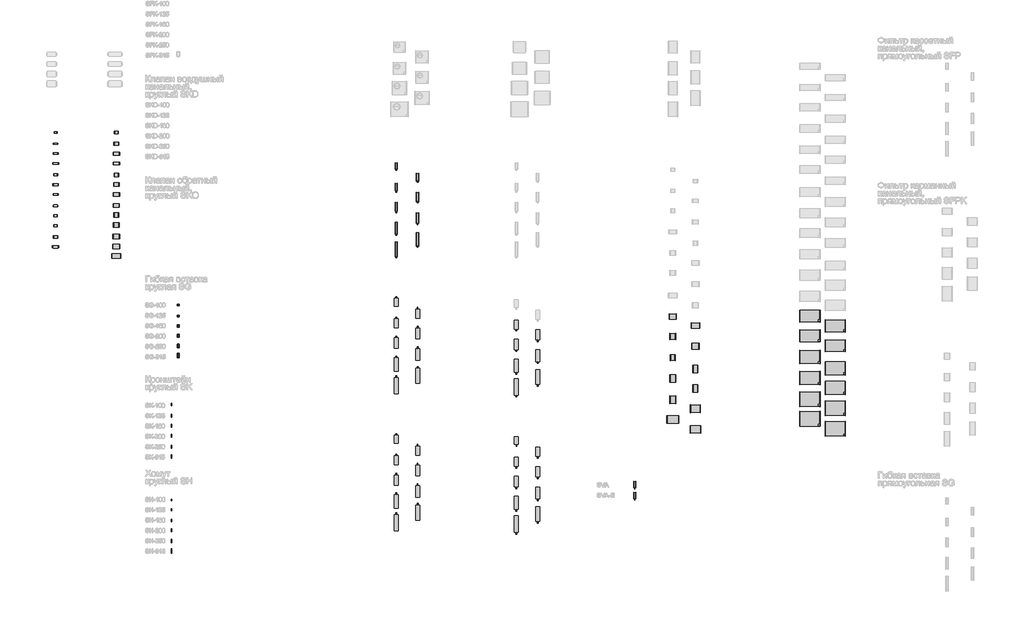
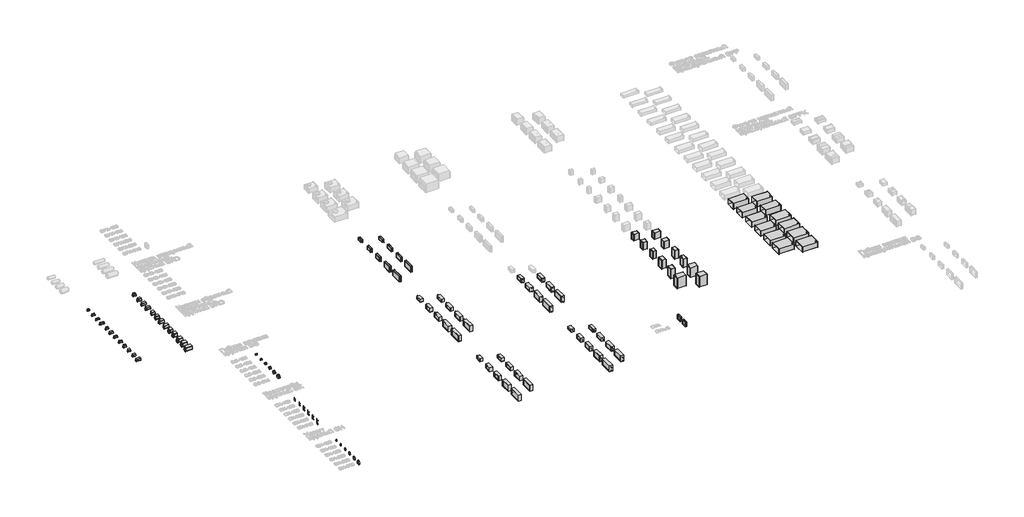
# One storey, part 1 of 31: 92 proxies, 12 duct fittings, 8 dampers.
"""IFC4 building model written with IfcOpenShell, lengths in millimetres."""

from ifc_helpers import new_model, si_unit, origin, place, context, project, spatial, transform, mapped, element, save
from components import mechanical_equipment_b47814ae, mechanical_equipment_1c517ccd, mechanical_equipment_89ec9e41, mechanical_equipment_c20731e0, mechanical_equipment_228ba155, mechanical_equipment_8e176f75, mechanical_equipment_6952d556, mechanical_equipment_70cf5aef, mechanical_equipment_b121b456, mechanical_equipment_2d57af06, mechanical_equipment_28e9e6f9, mechanical_equipment_b70cd4b4, mechanical_equipment_28121c7c, mechanical_equipment_35eb6cfc, mechanical_equipment_79761c90, mechanical_equipment_0bfd67fe, mechanical_equipment_e823907d, mechanical_equipment_239ba97e, mechanical_equipment_7e00c6e8, mechanical_equipment_5b81973e, mechanical_equipment_a84493ea, mechanical_equipment_276262f1, mechanical_equipment_5490f18c, mechanical_equipment_88e3c877, mechanical_equipment_e5c17de9, mechanical_equipment_13836d59, mechanical_equipment_3cc8e6d2, mechanical_equipment_0b54d464, mechanical_equipment_5d4a23c0, mechanical_equipment_1263eb8d, mechanical_equipment_32570a1a, mechanical_equipment_5f8ae278, mechanical_equipment_c1a8ffe5, mechanical_equipment_9a9d5098, mechanical_equipment_35fa630b, mechanical_equipment_1e4f478c, mechanical_equipment_5670d90b, mechanical_equipment_376c1359, mechanical_equipment_fcb9aed7, mechanical_equipment_759f91b6, mechanical_equipment_3be20053, mechanical_equipment_4ad8d908, mechanical_equipment_e5620a89, mechanical_equipment_38a8dd3d, mechanical_equipment_2bd975a8, mechanical_equipment_c4efd2f7, mechanical_equipment_3c6b7f57, mechanical_equipment_a84c9fad, mechanical_equipment_50ee9d71, mechanical_equipment_134bddf9, mechanical_equipment_55b060d5, mechanical_equipment_d7d3e3e1, mechanical_equipment_4c746dd5, mechanical_equipment_6bb9439d, mechanical_equipment_66c2cfd7, mechanical_equipment_b0fa356c, mechanical_equipment_4444cef8, mechanical_equipment_8d2328d6, mechanical_equipment_57107fca, mechanical_equipment_2f188b7c, mechanical_equipment_1b1addff, mechanical_equipment_ca928097, mechanical_equipment_fce2b66e, mechanical_equipment_a9e5a7ee, mechanical_equipment_61f48e37, mechanical_equipment_89104145, mechanical_equipment_e2811cc5, mechanical_equipment_e1696ac3, mechanical_equipment_7d7a51ef, mechanical_equipment_9b0fa026, mechanical_equipment_b4f86dda, mechanical_equipment_501dd943, mechanical_equipment_e76ec92c, mechanical_equipment_1a7b202f, mechanical_equipment_03cc3c5d, mechanical_equipment_e8fbd39b, mechanical_equipment_e0928fff, mechanical_equipment_3d9de555, mechanical_equipment_0687b049, sva_4ab12022, sg_100_5ce94af0, sg_125_f85b66b8, sg_160_08f91c44, sg_200_e4f14594, sg_250_57f15532, sg_315_5ef0e3f3, sh_100_c73d791e, sh_125_658f0c97, sh_160_df68ee8f, sh_200_04f6e43c, sh_250_80032faf, sh_315_680b5ec1, sk_100_6278c7a0, sk_125_be8d9755, sk_160_8e51cf89, sk_200_4e8135db, sk_250_66cdbe5c, sk_315_724401cd

model = new_model("IFC4")

# Units and contexts
model_context = context("Model", 3, world=origin())
ifc_project = project(units=[si_unit("LENGTHUNIT", "METRE", prefix="MILLI")], contexts=[model_context])

# Site, building, storey
site = spatial("IfcSite", under=ifc_project)
building = spatial("IfcBuilding", under=site)
storey = spatial("IfcBuildingStorey", under=building, Name="Этаж 01", Elevation=0.0)

# Proxies
placement = place(None, origin())
mechanical_equipment_shape = mechanical_equipment_b47814ae(model_context)
element("IfcBuildingElementProxy", 1, Name="СВ_ВоздухонагревательЭлектрический_КанальныйКруглый_DN100-315_SKH-E : SKH-E-100/0,5", ObjectType="СВ_ВоздухонагревательЭлектрический_КанальныйКруглый_DN100-315_SKH-E : SKH-E-100/0,5", at=placement, inside=storey, context=model_context, shape_type="MappedRepresentation", body=[
    mapped(mechanical_equipment_shape, transform((4028.018566, -19035.973435, 0.0), x_axis=(1.0, 0.0, 0.0), y_axis=(0.0, 1.0, 0.0), z_axis=(0.0, 0.0, 1.0))),
])
mechanical_equipment_2_shape = mechanical_equipment_1c517ccd(model_context)
element("IfcBuildingElementProxy", 2, Name="СВ_ВоздухонагревательЭлектрический_КанальныйКруглый_DN100-315_SKH-E : SKH-E-100/1,5", ObjectType="СВ_ВоздухонагревательЭлектрический_КанальныйКруглый_DN100-315_SKH-E : SKH-E-100/1,5", at=placement, inside=storey, context=model_context, shape_type="MappedRepresentation", body=[
    mapped(mechanical_equipment_2_shape, transform((4028.018566, -19835.973435, 0.0), x_axis=(1.0, 0.0, 0.0), y_axis=(0.0, 1.0, 0.0), z_axis=(0.0, 0.0, 1.0))),
])
mechanical_equipment_3_shape = mechanical_equipment_89ec9e41(model_context)
element("IfcBuildingElementProxy", 3, Name="СВ_ВоздухонагревательЭлектрический_КанальныйКруглый_DN100-315_SKH-E : SKH-E-100/2", ObjectType="СВ_ВоздухонагревательЭлектрический_КанальныйКруглый_DN100-315_SKH-E : SKH-E-100/2", at=placement, inside=storey, context=model_context, shape_type="MappedRepresentation", body=[
    mapped(mechanical_equipment_3_shape, transform((4028.018566, -20535.973435, 0.0), x_axis=(1.0, 0.0, 0.0), y_axis=(0.0, 1.0, 0.0), z_axis=(0.0, 0.0, 1.0))),
])
mechanical_equipment_4_shape = mechanical_equipment_c20731e0(model_context)
element("IfcBuildingElementProxy", 4, Name="СВ_ВоздухонагревательЭлектрический_КанальныйКруглый_DN100-315_SKH-E : SKH-E-100/2,5", ObjectType="СВ_ВоздухонагревательЭлектрический_КанальныйКруглый_DN100-315_SKH-E : SKH-E-100/2,5", at=placement, inside=storey, context=model_context, shape_type="MappedRepresentation", body=[
    mapped(mechanical_equipment_4_shape, transform((4028.018566, -21235.973435, 0.0), x_axis=(1.0, 0.0, 0.0), y_axis=(0.0, 1.0, 0.0), z_axis=(0.0, 0.0, 1.0))),
])
mechanical_equipment_5_shape = mechanical_equipment_228ba155(model_context)
element("IfcBuildingElementProxy", 5, Name="СВ_ВоздухонагревательЭлектрический_КанальныйКруглый_DN100-315_SKH-E : SKH-E-125/1,5", ObjectType="СВ_ВоздухонагревательЭлектрический_КанальныйКруглый_DN100-315_SKH-E : SKH-E-125/1,5", at=placement, inside=storey, context=model_context, shape_type="MappedRepresentation", body=[
    mapped(mechanical_equipment_5_shape, transform((4028.018566, -22035.973435, 0.0), x_axis=(1.0, 0.0, 0.0), y_axis=(0.0, 1.0, 0.0), z_axis=(0.0, 0.0, 1.0))),
])
mechanical_equipment_6_shape = mechanical_equipment_8e176f75(model_context)
element("IfcBuildingElementProxy", 6, Name="СВ_ВоздухонагревательЭлектрический_КанальныйКруглый_DN100-315_SKH-E : SKH-E-125/2", ObjectType="СВ_ВоздухонагревательЭлектрический_КанальныйКруглый_DN100-315_SKH-E : SKH-E-125/2", at=placement, inside=storey, context=model_context, shape_type="MappedRepresentation", body=[
    mapped(mechanical_equipment_6_shape, transform((4028.018566, -22735.973435, 0.0), x_axis=(1.0, 0.0, 0.0), y_axis=(0.0, 1.0, 0.0), z_axis=(0.0, 0.0, 1.0))),
])
mechanical_equipment_7_shape = mechanical_equipment_6952d556(model_context)
element("IfcBuildingElementProxy", 7, Name="СВ_ВоздухонагревательЭлектрический_КанальныйКруглый_DN100-315_SKH-E : SKH-E-125/2,5", ObjectType="СВ_ВоздухонагревательЭлектрический_КанальныйКруглый_DN100-315_SKH-E : SKH-E-125/2,5", at=placement, inside=storey, context=model_context, shape_type="MappedRepresentation", body=[
    mapped(mechanical_equipment_7_shape, transform((4028.018566, -23435.973435, 0.0), x_axis=(1.0, 0.0, 0.0), y_axis=(0.0, 1.0, 0.0), z_axis=(0.0, 0.0, 1.0))),
])
element("IfcBuildingElementProxy", 8, Name="СВ_ВоздухонагревательЭлектрический_КанальныйКруглый_DN100-315_SKH-E : SKH-E-125/3", ObjectType="СВ_ВоздухонагревательЭлектрический_КанальныйКруглый_DN100-315_SKH-E : SKH-E-125/3", at=placement, inside=storey, context=model_context, shape_type="MappedRepresentation", body=[
    mapped(mechanical_equipment_7_shape, transform((4020.518566, -24235.973435, 0.0), x_axis=(1.0, 0.0, 0.0), y_axis=(0.0, 1.0, 0.0), z_axis=(0.0, 0.0, 1.0))),
])
mechanical_equipment_8_shape = mechanical_equipment_70cf5aef(model_context)
element("IfcBuildingElementProxy", 9, Name="СВ_ВоздухонагревательЭлектрический_КанальныйКруглый_DN100-315_SKH-E : SKH-E-160/2", ObjectType="СВ_ВоздухонагревательЭлектрический_КанальныйКруглый_DN100-315_SKH-E : SKH-E-160/2", at=placement, inside=storey, context=model_context, shape_type="MappedRepresentation", body=[
    mapped(mechanical_equipment_8_shape, transform((4020.518566, -24935.973435, 0.0), x_axis=(1.0, 0.0, 0.0), y_axis=(0.0, 1.0, 0.0), z_axis=(0.0, 0.0, 1.0))),
])
element("IfcBuildingElementProxy", 10, Name="СВ_ВоздухонагревательЭлектрический_КанальныйКруглый_DN100-315_SKH-E : SKH-E-160/3", ObjectType="СВ_ВоздухонагревательЭлектрический_КанальныйКруглый_DN100-315_SKH-E : SKH-E-160/3", at=placement, inside=storey, context=model_context, shape_type="MappedRepresentation", body=[
    mapped(mechanical_equipment_8_shape, transform((4020.518566, -25635.973435, 0.0), x_axis=(1.0, 0.0, 0.0), y_axis=(0.0, 1.0, 0.0), z_axis=(0.0, 0.0, 1.0))),
])
mechanical_equipment_9_shape = mechanical_equipment_b121b456(model_context)
element("IfcBuildingElementProxy", 11, Name="СВ_ВоздухонагревательЭлектрический_КанальныйКруглый_DN100-315_SKH-E : SKH-E-160/4,5", ObjectType="СВ_ВоздухонагревательЭлектрический_КанальныйКруглый_DN100-315_SKH-E : SKH-E-160/4,5", at=placement, inside=storey, context=model_context, shape_type="MappedRepresentation", body=[
    mapped(mechanical_equipment_9_shape, transform((4020.518566, -26435.973435, 0.0), x_axis=(1.0, 0.0, 0.0), y_axis=(0.0, 1.0, 0.0), z_axis=(0.0, 0.0, 1.0))),
])
mechanical_equipment_10_shape = mechanical_equipment_2d57af06(model_context)
element("IfcBuildingElementProxy", 12, Name="СВ_ВоздухонагревательЭлектрический_КанальныйКруглый_DN100-315_SKH-E : SKH-E-160/6", ObjectType="СВ_ВоздухонагревательЭлектрический_КанальныйКруглый_DN100-315_SKH-E : SKH-E-160/6", at=placement, inside=storey, context=model_context, shape_type="MappedRepresentation", body=[
    mapped(mechanical_equipment_10_shape, transform((4020.518566, -27135.973435, 0.0), x_axis=(1.0, 0.0, 0.0), y_axis=(0.0, 1.0, 0.0), z_axis=(0.0, 0.0, 1.0))),
])
mechanical_equipment_11_shape = mechanical_equipment_28e9e6f9(model_context)
element("IfcBuildingElementProxy", 13, Name="СВ_ВоздухонагревательЭлектрический_КанальныйКруглый_DN100-315_SKH-E : SKH-E-200/3", ObjectType="СВ_ВоздухонагревательЭлектрический_КанальныйКруглый_DN100-315_SKH-E : SKH-E-200/3", at=placement, inside=storey, context=model_context, shape_type="MappedRepresentation", body=[
    mapped(mechanical_equipment_11_shape, transform((8328.018566, -19035.973435, 0.0), x_axis=(1.0, 0.0, 0.0), y_axis=(0.0, 1.0, 0.0), z_axis=(0.0, 0.0, 1.0))),
])
mechanical_equipment_12_shape = mechanical_equipment_b70cd4b4(model_context)
element("IfcBuildingElementProxy", 14, Name="СВ_ВоздухонагревательЭлектрический_КанальныйКруглый_DN100-315_SKH-E : SKH-E-200/6", ObjectType="СВ_ВоздухонагревательЭлектрический_КанальныйКруглый_DN100-315_SKH-E : SKH-E-200/6", at=placement, inside=storey, context=model_context, shape_type="MappedRepresentation", body=[
    mapped(mechanical_equipment_12_shape, transform((8328.018566, -19835.973435, 0.0), x_axis=(1.0, 0.0, 0.0), y_axis=(0.0, 1.0, 0.0), z_axis=(0.0, 0.0, 1.0))),
])
mechanical_equipment_13_shape = mechanical_equipment_28121c7c(model_context)
element("IfcBuildingElementProxy", 15, Name="СВ_ВоздухонагревательЭлектрический_КанальныйКруглый_DN100-315_SKH-E : SKH-E-200/9", ObjectType="СВ_ВоздухонагревательЭлектрический_КанальныйКруглый_DN100-315_SKH-E : SKH-E-200/9", at=placement, inside=storey, context=model_context, shape_type="MappedRepresentation", body=[
    mapped(mechanical_equipment_13_shape, transform((8328.018566, -20535.973435, 0.0), x_axis=(1.0, 0.0, 0.0), y_axis=(0.0, 1.0, 0.0), z_axis=(0.0, 0.0, 1.0))),
])
element("IfcBuildingElementProxy", 16, Name="СВ_ВоздухонагревательЭлектрический_КанальныйКруглый_DN100-315_SKH-E : SKH-E-200/12", ObjectType="СВ_ВоздухонагревательЭлектрический_КанальныйКруглый_DN100-315_SKH-E : SKH-E-200/12", at=placement, inside=storey, context=model_context, shape_type="MappedRepresentation", body=[
    mapped(mechanical_equipment_13_shape, transform((8328.018566, -21235.973435, 0.0), x_axis=(1.0, 0.0, 0.0), y_axis=(0.0, 1.0, 0.0), z_axis=(0.0, 0.0, 1.0))),
])
mechanical_equipment_14_shape = mechanical_equipment_35eb6cfc(model_context)
element("IfcBuildingElementProxy", 17, Name="СВ_ВоздухонагревательЭлектрический_КанальныйКруглый_DN100-315_SKH-E : SKH-E-250/6", ObjectType="СВ_ВоздухонагревательЭлектрический_КанальныйКруглый_DN100-315_SKH-E : SKH-E-250/6", at=placement, inside=storey, context=model_context, shape_type="MappedRepresentation", body=[
    mapped(mechanical_equipment_14_shape, transform((8328.018566, -22035.973435, 0.0), x_axis=(1.0, 0.0, 0.0), y_axis=(0.0, 1.0, 0.0), z_axis=(0.0, 0.0, 1.0))),
])
mechanical_equipment_15_shape = mechanical_equipment_79761c90(model_context)
element("IfcBuildingElementProxy", 18, Name="СВ_ВоздухонагревательЭлектрический_КанальныйКруглый_DN100-315_SKH-E : SKH-E-250/9", ObjectType="СВ_ВоздухонагревательЭлектрический_КанальныйКруглый_DN100-315_SKH-E : SKH-E-250/9", at=placement, inside=storey, context=model_context, shape_type="MappedRepresentation", body=[
    mapped(mechanical_equipment_15_shape, transform((8328.018566, -22735.973435, 0.0), x_axis=(1.0, 0.0, 0.0), y_axis=(0.0, 1.0, 0.0), z_axis=(0.0, 0.0, 1.0))),
])
mechanical_equipment_16_shape = mechanical_equipment_0bfd67fe(model_context)
element("IfcBuildingElementProxy", 19, Name="СВ_ВоздухонагревательЭлектрический_КанальныйКруглый_DN100-315_SKH-E : SKH-E-250/12", ObjectType="СВ_ВоздухонагревательЭлектрический_КанальныйКруглый_DN100-315_SKH-E : SKH-E-250/12", at=placement, inside=storey, context=model_context, shape_type="MappedRepresentation", body=[
    mapped(mechanical_equipment_16_shape, transform((8328.018566, -23435.973435, 0.0), x_axis=(1.0, 0.0, 0.0), y_axis=(0.0, 1.0, 0.0), z_axis=(0.0, 0.0, 1.0))),
])
mechanical_equipment_17_shape = mechanical_equipment_e823907d(model_context)
element("IfcBuildingElementProxy", 20, Name="СВ_ВоздухонагревательЭлектрический_КанальныйКруглый_DN100-315_SKH-E : SKH-E-250/15", ObjectType="СВ_ВоздухонагревательЭлектрический_КанальныйКруглый_DN100-315_SKH-E : SKH-E-250/15", at=placement, inside=storey, context=model_context, shape_type="MappedRepresentation", body=[
    mapped(mechanical_equipment_17_shape, transform((8320.518566, -24195.973435, 0.0), x_axis=(1.0, 0.0, 0.0), y_axis=(0.0, 1.0, 0.0), z_axis=(0.0, 0.0, 1.0))),
])
mechanical_equipment_18_shape = mechanical_equipment_239ba97e(model_context)
element("IfcBuildingElementProxy", 21, Name="СВ_ВоздухонагревательЭлектрический_КанальныйКруглый_DN100-315_SKH-E : SKH-E-315/6", ObjectType="СВ_ВоздухонагревательЭлектрический_КанальныйКруглый_DN100-315_SKH-E : SKH-E-315/6", at=placement, inside=storey, context=model_context, shape_type="MappedRepresentation", body=[
    mapped(mechanical_equipment_18_shape, transform((8320.518566, -24895.973435, 0.0), x_axis=(1.0, 0.0, 0.0), y_axis=(0.0, 1.0, 0.0), z_axis=(0.0, 0.0, 1.0))),
])
mechanical_equipment_19_shape = mechanical_equipment_7e00c6e8(model_context)
element("IfcBuildingElementProxy", 22, Name="СВ_ВоздухонагревательЭлектрический_КанальныйКруглый_DN100-315_SKH-E : SKH-E-315/9", ObjectType="СВ_ВоздухонагревательЭлектрический_КанальныйКруглый_DN100-315_SKH-E : SKH-E-315/9", at=placement, inside=storey, context=model_context, shape_type="MappedRepresentation", body=[
    mapped(mechanical_equipment_19_shape, transform((8320.518566, -25595.973435, 0.0), x_axis=(1.0, 0.0, 0.0), y_axis=(0.0, 1.0, 0.0), z_axis=(0.0, 0.0, 1.0))),
])
mechanical_equipment_20_shape = mechanical_equipment_5b81973e(model_context)
element("IfcBuildingElementProxy", 23, Name="СВ_ВоздухонагревательЭлектрический_КанальныйКруглый_DN100-315_SKH-E : SKH-E-315/12", ObjectType="СВ_ВоздухонагревательЭлектрический_КанальныйКруглый_DN100-315_SKH-E : SKH-E-315/12", at=placement, inside=storey, context=model_context, shape_type="MappedRepresentation", body=[
    mapped(mechanical_equipment_20_shape, transform((8320.518566, -26395.973435, 0.0), x_axis=(1.0, 0.0, 0.0), y_axis=(0.0, 1.0, 0.0), z_axis=(0.0, 0.0, 1.0))),
])
mechanical_equipment_21_shape = mechanical_equipment_a84493ea(model_context)
element("IfcBuildingElementProxy", 24, Name="СВ_ВоздухонагревательЭлектрический_КанальныйКруглый_DN100-315_SKH-E : SKH-E-315/15", ObjectType="СВ_ВоздухонагревательЭлектрический_КанальныйКруглый_DN100-315_SKH-E : SKH-E-315/15", at=placement, inside=storey, context=model_context, shape_type="MappedRepresentation", body=[
    mapped(mechanical_equipment_21_shape, transform((8320.518566, -27095.973435, 0.0), x_axis=(1.0, 0.0, 0.0), y_axis=(0.0, 1.0, 0.0), z_axis=(0.0, 0.0, 1.0))),
])
mechanical_equipment_22_shape = mechanical_equipment_276262f1(model_context)
element("IfcBuildingElementProxy", 25, Name="СВ_ВоздухонагревательЭлектрический_КанальныйКруглый_DN100-315_SKH-E : SKH-E-315/18", ObjectType="СВ_ВоздухонагревательЭлектрический_КанальныйКруглый_DN100-315_SKH-E : SKH-E-315/18", at=placement, inside=storey, context=model_context, shape_type="MappedRepresentation", body=[
    mapped(mechanical_equipment_22_shape, transform((8320.518566, -27795.973435, 0.0), x_axis=(1.0, 0.0, 0.0), y_axis=(0.0, 1.0, 0.0), z_axis=(0.0, 0.0, 1.0))),
])
mechanical_equipment_23_shape = mechanical_equipment_5490f18c(model_context)
element("IfcBuildingElementProxy", 26, Name="СВ_ВоздухонагревательВодяной_КанальныйПрямоугольный_200-1000_SPH-W : SPH-W-400x200/2", ObjectType="СВ_ВоздухонагревательВодяной_КанальныйПрямоугольный_200-1000_SPH-W : SPH-W-400x200/2", at=placement, inside=storey, context=model_context, shape_type="MappedRepresentation", body=[
    mapped(mechanical_equipment_23_shape, transform((28148.018566, -21406.6655363, 0.0), x_axis=(1.0, 0.0, 0.0), y_axis=(0.0, 1.0, 0.0), z_axis=(0.0, 0.0, 1.0))),
])
mechanical_equipment_24_shape = mechanical_equipment_88e3c877(model_context)
element("IfcBuildingElementProxy", 27, Name="СВ_ВоздухонагревательВодяной_КанальныйПрямоугольный_200-1000_SPH-W : SPH-W-500x250/2", ObjectType="СВ_ВоздухонагревательВодяной_КанальныйПрямоугольный_200-1000_SPH-W : SPH-W-500x250/2", at=placement, inside=storey, context=model_context, shape_type="MappedRepresentation", body=[
    mapped(mechanical_equipment_24_shape, transform((29648.018566, -22206.6655363, 0.0), x_axis=(1.0, 0.0, 0.0), y_axis=(0.0, 1.0, 0.0), z_axis=(0.0, 0.0, 1.0))),
])
mechanical_equipment_25_shape = mechanical_equipment_e5c17de9(model_context)
element("IfcBuildingElementProxy", 28, Name="СВ_ВоздухонагревательВодяной_КанальныйПрямоугольный_200-1000_SPH-W : SPH-W-500x300/2", ObjectType="СВ_ВоздухонагревательВодяной_КанальныйПрямоугольный_200-1000_SPH-W : SPH-W-500x300/2", at=placement, inside=storey, context=model_context, shape_type="MappedRepresentation", body=[
    mapped(mechanical_equipment_25_shape, transform((28148.018566, -22906.6655363, 0.0), x_axis=(1.0, 0.0, 0.0), y_axis=(0.0, 1.0, 0.0), z_axis=(0.0, 0.0, 1.0))),
])
mechanical_equipment_26_shape = mechanical_equipment_13836d59(model_context)
element("IfcBuildingElementProxy", 29, Name="СВ_ВоздухонагревательВодяной_КанальныйПрямоугольный_200-1000_SPH-W : SPH-W-600x300/2", ObjectType="СВ_ВоздухонагревательВодяной_КанальныйПрямоугольный_200-1000_SPH-W : SPH-W-600x300/2", at=placement, inside=storey, context=model_context, shape_type="MappedRepresentation", body=[
    mapped(mechanical_equipment_26_shape, transform((29648.018566, -23606.6655363, 0.0), x_axis=(1.0, 0.0, 0.0), y_axis=(0.0, 1.0, 0.0), z_axis=(0.0, 0.0, 1.0))),
])
mechanical_equipment_27_shape = mechanical_equipment_3cc8e6d2(model_context)
element("IfcBuildingElementProxy", 30, Name="СВ_ВоздухонагревательВодяной_КанальныйПрямоугольный_200-1000_SPH-W : SPH-W-600x350/2", ObjectType="СВ_ВоздухонагревательВодяной_КанальныйПрямоугольный_200-1000_SPH-W : SPH-W-600x350/2", at=placement, inside=storey, context=model_context, shape_type="MappedRepresentation", body=[
    mapped(mechanical_equipment_27_shape, transform((28148.018566, -24306.6655363, 0.0), x_axis=(1.0, 0.0, 0.0), y_axis=(0.0, 1.0, 0.0), z_axis=(0.0, 0.0, 1.0))),
])
mechanical_equipment_28_shape = mechanical_equipment_0b54d464(model_context)
element("IfcBuildingElementProxy", 31, Name="СВ_ВоздухонагревательВодяной_КанальныйПрямоугольный_200-1000_SPH-W : SPH-W-700x400/2", ObjectType="СВ_ВоздухонагревательВодяной_КанальныйПрямоугольный_200-1000_SPH-W : SPH-W-700x400/2", at=placement, inside=storey, context=model_context, shape_type="MappedRepresentation", body=[
    mapped(mechanical_equipment_28_shape, transform((29648.018566, -25106.6655363, 0.0), x_axis=(1.0, 0.0, 0.0), y_axis=(0.0, 1.0, 0.0), z_axis=(0.0, 0.0, 1.0))),
])
mechanical_equipment_29_shape = mechanical_equipment_5d4a23c0(model_context)
element("IfcBuildingElementProxy", 32, Name="СВ_ВоздухонагревательВодяной_КанальныйПрямоугольный_200-1000_SPH-W : SPH-W-800x500/2", ObjectType="СВ_ВоздухонагревательВодяной_КанальныйПрямоугольный_200-1000_SPH-W : SPH-W-800x500/2", at=placement, inside=storey, context=model_context, shape_type="MappedRepresentation", body=[
    mapped(mechanical_equipment_29_shape, transform((28148.018566, -25806.6655363, 0.0), x_axis=(1.0, 0.0, 0.0), y_axis=(0.0, 1.0, 0.0), z_axis=(0.0, 0.0, 1.0))),
])
mechanical_equipment_30_shape = mechanical_equipment_1263eb8d(model_context)
element("IfcBuildingElementProxy", 33, Name="СВ_ВоздухонагревательВодяной_КанальныйПрямоугольный_200-1000_SPH-W : SPH-W-900x500/2", ObjectType="СВ_ВоздухонагревательВодяной_КанальныйПрямоугольный_200-1000_SPH-W : SPH-W-900x500/2", at=placement, inside=storey, context=model_context, shape_type="MappedRepresentation", body=[
    mapped(mechanical_equipment_30_shape, transform((29648.018566, -26606.6655363, 0.0), x_axis=(1.0, 0.0, 0.0), y_axis=(0.0, 1.0, 0.0), z_axis=(0.0, 0.0, 1.0))),
])
mechanical_equipment_31_shape = mechanical_equipment_32570a1a(model_context)
element("IfcBuildingElementProxy", 34, Name="СВ_ВоздухонагревательВодяной_КанальныйПрямоугольный_200-1000_SPH-W : SPH-W-1000x500/2", ObjectType="СВ_ВоздухонагревательВодяной_КанальныйПрямоугольный_200-1000_SPH-W : SPH-W-1000x500/2", at=placement, inside=storey, context=model_context, shape_type="MappedRepresentation", body=[
    mapped(mechanical_equipment_31_shape, transform((28148.018566, -27306.6655363, 0.0), x_axis=(1.0, 0.0, 0.0), y_axis=(0.0, 1.0, 0.0), z_axis=(0.0, 0.0, 1.0))),
])
mechanical_equipment_32_shape = mechanical_equipment_5f8ae278(model_context)
element("IfcBuildingElementProxy", 35, Name="СВ_ВоздухонагревательЭлектрический_КанальныйПрямоугольный_200-1000_SPH-E : SPH-E-600x350/22,5", ObjectType="СВ_ВоздухонагревательЭлектрический_КанальныйПрямоугольный_200-1000_SPH-E : SPH-E-600x350/22,5", at=placement, inside=storey, context=model_context, shape_type="MappedRepresentation", body=[
    mapped(mechanical_equipment_32_shape, transform((47719.2858067, -32076.8815779, 0.0), x_axis=(1.0, 0.0, 0.0), y_axis=(0.0, 1.0, 0.0), z_axis=(0.0, 0.0, 1.0))),
])
mechanical_equipment_33_shape = mechanical_equipment_c1a8ffe5(model_context)
element("IfcBuildingElementProxy", 36, Name="СВ_ВоздухонагревательЭлектрический_КанальныйПрямоугольный_200-1000_SPH-E : SPH-E-600x350/30", ObjectType="СВ_ВоздухонагревательЭлектрический_КанальныйПрямоугольный_200-1000_SPH-E : SPH-E-600x350/30", at=placement, inside=storey, context=model_context, shape_type="MappedRepresentation", body=[
    mapped(mechanical_equipment_33_shape, transform((49319.2858067, -32716.8815779, 0.0), x_axis=(1.0, 0.0, 0.0), y_axis=(0.0, 1.0, 0.0), z_axis=(0.0, 0.0, 1.0))),
])
mechanical_equipment_34_shape = mechanical_equipment_9a9d5098(model_context)
element("IfcBuildingElementProxy", 37, Name="СВ_ВоздухонагревательЭлектрический_КанальныйПрямоугольный_200-1000_SPH-E : SPH-E-700x400/15", ObjectType="СВ_ВоздухонагревательЭлектрический_КанальныйПрямоугольный_200-1000_SPH-E : SPH-E-700x400/15", at=placement, inside=storey, context=model_context, shape_type="MappedRepresentation", body=[
    mapped(mechanical_equipment_34_shape, transform((47719.2858067, -33476.8815779, 0.0), x_axis=(1.0, 0.0, 0.0), y_axis=(0.0, 1.0, 0.0), z_axis=(0.0, 0.0, 1.0))),
])
mechanical_equipment_35_shape = mechanical_equipment_35fa630b(model_context)
element("IfcBuildingElementProxy", 38, Name="СВ_ВоздухонагревательЭлектрический_КанальныйПрямоугольный_200-1000_SPH-E : SPH-E-700x400/30", ObjectType="СВ_ВоздухонагревательЭлектрический_КанальныйПрямоугольный_200-1000_SPH-E : SPH-E-700x400/30", at=placement, inside=storey, context=model_context, shape_type="MappedRepresentation", body=[
    mapped(mechanical_equipment_35_shape, transform((49319.2858067, -34176.8815779, 0.0), x_axis=(1.0, 0.0, 0.0), y_axis=(0.0, 1.0, 0.0), z_axis=(0.0, 0.0, 1.0))),
])
mechanical_equipment_36_shape = mechanical_equipment_1e4f478c(model_context)
element("IfcBuildingElementProxy", 39, Name="СВ_ВоздухонагревательЭлектрический_КанальныйПрямоугольный_200-1000_SPH-E : SPH-E-700x400/45", ObjectType="СВ_ВоздухонагревательЭлектрический_КанальныйПрямоугольный_200-1000_SPH-E : SPH-E-700x400/45", at=placement, inside=storey, context=model_context, shape_type="MappedRepresentation", body=[
    mapped(mechanical_equipment_36_shape, transform((47719.2858067, -34976.8815779, 0.0), x_axis=(1.0, 0.0, 0.0), y_axis=(0.0, 1.0, 0.0), z_axis=(0.0, 0.0, 1.0))),
])
mechanical_equipment_37_shape = mechanical_equipment_5670d90b(model_context)
element("IfcBuildingElementProxy", 40, Name="СВ_ВоздухонагревательЭлектрический_КанальныйПрямоугольный_200-1000_SPH-E : SPH-E-800x500/15", ObjectType="СВ_ВоздухонагревательЭлектрический_КанальныйПрямоугольный_200-1000_SPH-E : SPH-E-800x500/15", at=placement, inside=storey, context=model_context, shape_type="MappedRepresentation", body=[
    mapped(mechanical_equipment_37_shape, transform((49319.2858067, -35776.8815779, 0.0), x_axis=(1.0, 0.0, 0.0), y_axis=(0.0, 1.0, 0.0), z_axis=(0.0, 0.0, 1.0))),
])
mechanical_equipment_38_shape = mechanical_equipment_376c1359(model_context)
element("IfcBuildingElementProxy", 41, Name="СВ_ВоздухонагревательЭлектрический_КанальныйПрямоугольный_200-1000_SPH-E : SPH-E-800x500/30", ObjectType="СВ_ВоздухонагревательЭлектрический_КанальныйПрямоугольный_200-1000_SPH-E : SPH-E-800x500/30", at=placement, inside=storey, context=model_context, shape_type="MappedRepresentation", body=[
    mapped(mechanical_equipment_38_shape, transform((47719.2858067, -36456.8815779, 0.0), x_axis=(1.0, 0.0, 0.0), y_axis=(0.0, 1.0, 0.0), z_axis=(0.0, 0.0, 1.0))),
])
element("IfcBuildingElementProxy", 42, Name="СВ_ВоздухонагревательЭлектрический_КанальныйПрямоугольный_200-1000_SPH-E : SPH-E-800x500/45", ObjectType="СВ_ВоздухонагревательЭлектрический_КанальныйПрямоугольный_200-1000_SPH-E : SPH-E-800x500/45", at=placement, inside=storey, context=model_context, shape_type="MappedRepresentation", body=[
    mapped(mechanical_equipment_37_shape, transform((49319.2858067, -37156.8815779, 0.0), x_axis=(1.0, 0.0, 0.0), y_axis=(0.0, 1.0, 0.0), z_axis=(0.0, 0.0, 1.0))),
])
mechanical_equipment_39_shape = mechanical_equipment_fcb9aed7(model_context)
element("IfcBuildingElementProxy", 43, Name="СВ_ВоздухонагревательЭлектрический_КанальныйПрямоугольный_200-1000_SPH-E : SPH-E-900x500/30", ObjectType="СВ_ВоздухонагревательЭлектрический_КанальныйПрямоугольный_200-1000_SPH-E : SPH-E-900x500/30", at=placement, inside=storey, context=model_context, shape_type="MappedRepresentation", body=[
    mapped(mechanical_equipment_39_shape, transform((47719.2858067, -37956.8815779, 0.0), x_axis=(1.0, 0.0, 0.0), y_axis=(0.0, 1.0, 0.0), z_axis=(0.0, 0.0, 1.0))),
])
mechanical_equipment_40_shape = mechanical_equipment_759f91b6(model_context)
element("IfcBuildingElementProxy", 44, Name="СВ_ВоздухонагревательЭлектрический_КанальныйПрямоугольный_200-1000_SPH-E : SPH-E-900x500/45", ObjectType="СВ_ВоздухонагревательЭлектрический_КанальныйПрямоугольный_200-1000_SPH-E : SPH-E-900x500/45", at=placement, inside=storey, context=model_context, shape_type="MappedRepresentation", body=[
    mapped(mechanical_equipment_40_shape, transform((49319.2858067, -38596.8815779, 0.0), x_axis=(1.0, 0.0, 0.0), y_axis=(0.0, 1.0, 0.0), z_axis=(0.0, 0.0, 1.0))),
])
mechanical_equipment_41_shape = mechanical_equipment_3be20053(model_context)
element("IfcBuildingElementProxy", 45, Name="СВ_ВоздухонагревательЭлектрический_КанальныйПрямоугольный_200-1000_SPH-E : SPH-E-1000x500/45", ObjectType="СВ_ВоздухонагревательЭлектрический_КанальныйПрямоугольный_200-1000_SPH-E : SPH-E-1000x500/45", at=placement, inside=storey, context=model_context, shape_type="MappedRepresentation", body=[
    mapped(mechanical_equipment_41_shape, transform((47719.2858067, -39356.8815779, 0.0), x_axis=(1.0, 0.0, 0.0), y_axis=(0.0, 1.0, 0.0), z_axis=(0.0, 0.0, 1.0))),
])
mechanical_equipment_42_shape = mechanical_equipment_4ad8d908(model_context)
element("IfcBuildingElementProxy", 46, Name="СВ_ВоздухонагревательЭлектрический_КанальныйПрямоугольный_200-1000_SPH-E : SPH-E-1000x500/60", ObjectType="СВ_ВоздухонагревательЭлектрический_КанальныйПрямоугольный_200-1000_SPH-E : SPH-E-1000x500/60", at=placement, inside=storey, context=model_context, shape_type="MappedRepresentation", body=[
    mapped(mechanical_equipment_42_shape, transform((49319.2858067, -40056.8815779, 0.0), x_axis=(1.0, 0.0, 0.0), y_axis=(0.0, 1.0, 0.0), z_axis=(0.0, 0.0, 1.0))),
])
mechanical_equipment_43_shape = mechanical_equipment_e5620a89(model_context)
element("IfcBuildingElementProxy", 47, Name="СВ_СекцияБактерициднойОбработкиВоздуха_КанальнаяПрямоугольная_200-1000_SBS : SBS-800x500/127", ObjectType="СВ_СекцияБактерициднойОбработкиВоздуха_КанальнаяПрямоугольная_200-1000_SBS : SBS-800x500/127", at=placement, inside=storey, context=model_context, shape_type="MappedRepresentation", body=[
    mapped(mechanical_equipment_43_shape, transform((59220.8619398, -32738.3925071, 0.0), x_axis=(1.0, 0.0, 0.0), y_axis=(0.0, 1.0, 0.0), z_axis=(0.0, 0.0, 1.0))),
])
element("IfcBuildingElementProxy", 48, Name="СВ_СекцияБактерициднойОбработкиВоздуха_КанальнаяПрямоугольная_200-1000_SBS : SBS-800x500/206", ObjectType="СВ_СекцияБактерициднойОбработкиВоздуха_КанальнаяПрямоугольная_200-1000_SBS : SBS-800x500/206", at=placement, inside=storey, context=model_context, shape_type="MappedRepresentation", body=[
    mapped(mechanical_equipment_43_shape, transform((57420.8619398, -33438.3925071, 0.0), x_axis=(1.0, 0.0, 0.0), y_axis=(0.0, 1.0, 0.0), z_axis=(0.0, 0.0, 1.0))),
])
element("IfcBuildingElementProxy", 49, Name="СВ_СекцияБактерициднойОбработкиВоздуха_КанальнаяПрямоугольная_200-1000_SBS : SBS-800x500/302", ObjectType="СВ_СекцияБактерициднойОбработкиВоздуха_КанальнаяПрямоугольная_200-1000_SBS : SBS-800x500/302", at=placement, inside=storey, context=model_context, shape_type="MappedRepresentation", body=[
    mapped(mechanical_equipment_43_shape, transform((59220.8619398, -34138.3925071, 0.0), x_axis=(1.0, 0.0, 0.0), y_axis=(0.0, 1.0, 0.0), z_axis=(0.0, 0.0, 1.0))),
])
mechanical_equipment_44_shape = mechanical_equipment_38a8dd3d(model_context)
element("IfcBuildingElementProxy", 50, Name="СВ_СекцияБактерициднойОбработкиВоздуха_КанальнаяПрямоугольная_200-1000_SBS : SBS-900x500/159", ObjectType="СВ_СекцияБактерициднойОбработкиВоздуха_КанальнаяПрямоугольная_200-1000_SBS : SBS-900x500/159", at=placement, inside=storey, context=model_context, shape_type="MappedRepresentation", body=[
    mapped(mechanical_equipment_44_shape, transform((59220.8619398, -35738.3925071, 0.0), x_axis=(1.0, 0.0, 0.0), y_axis=(0.0, 1.0, 0.0), z_axis=(0.0, 0.0, 1.0))),
])
element("IfcBuildingElementProxy", 51, Name="СВ_СекцияБактерициднойОбработкиВоздуха_КанальнаяПрямоугольная_200-1000_SBS : SBS-900x500/238", ObjectType="СВ_СекцияБактерициднойОбработкиВоздуха_КанальнаяПрямоугольная_200-1000_SBS : SBS-900x500/238", at=placement, inside=storey, context=model_context, shape_type="MappedRepresentation", body=[
    mapped(mechanical_equipment_44_shape, transform((57420.8619398, -36418.3925071, 0.0), x_axis=(1.0, 0.0, 0.0), y_axis=(0.0, 1.0, 0.0), z_axis=(0.0, 0.0, 1.0))),
])
element("IfcBuildingElementProxy", 52, Name="СВ_СекцияБактерициднойОбработкиВоздуха_КанальнаяПрямоугольная_200-1000_SBS : SBS-900x500/365", ObjectType="СВ_СекцияБактерициднойОбработкиВоздуха_КанальнаяПрямоугольная_200-1000_SBS : SBS-900x500/365", at=placement, inside=storey, context=model_context, shape_type="MappedRepresentation", body=[
    mapped(mechanical_equipment_44_shape, transform((59220.8619398, -37118.3925071, 0.0), x_axis=(1.0, 0.0, 0.0), y_axis=(0.0, 1.0, 0.0), z_axis=(0.0, 0.0, 1.0))),
])
mechanical_equipment_45_shape = mechanical_equipment_2bd975a8(model_context)
element("IfcBuildingElementProxy", 53, Name="СВ_СекцияБактерициднойОбработкиВоздуха_КанальнаяПрямоугольная_200-1000_SBS : SBS-1000x500/111", ObjectType="СВ_СекцияБактерициднойОбработкиВоздуха_КанальнаяПрямоугольная_200-1000_SBS : SBS-1000x500/111", at=placement, inside=storey, context=model_context, shape_type="MappedRepresentation", body=[
    mapped(mechanical_equipment_45_shape, transform((57420.8619398, -37918.3925071, 0.0), x_axis=(1.0, 0.0, 0.0), y_axis=(0.0, 1.0, 0.0), z_axis=(0.0, 0.0, 1.0))),
])
element("IfcBuildingElementProxy", 54, Name="СВ_СекцияБактерициднойОбработкиВоздуха_КанальнаяПрямоугольная_200-1000_SBS : SBS-1000x500/190", ObjectType="СВ_СекцияБактерициднойОбработкиВоздуха_КанальнаяПрямоугольная_200-1000_SBS : SBS-1000x500/190", at=placement, inside=storey, context=model_context, shape_type="MappedRepresentation", body=[
    mapped(mechanical_equipment_45_shape, transform((59220.8619398, -38558.3925071, 0.0), x_axis=(1.0, 0.0, 0.0), y_axis=(0.0, 1.0, 0.0), z_axis=(0.0, 0.0, 1.0))),
])
element("IfcBuildingElementProxy", 55, Name="СВ_СекцияБактерициднойОбработкиВоздуха_КанальнаяПрямоугольная_200-1000_SBS : SBS-1000x500/270", ObjectType="СВ_СекцияБактерициднойОбработкиВоздуха_КанальнаяПрямоугольная_200-1000_SBS : SBS-1000x500/270", at=placement, inside=storey, context=model_context, shape_type="MappedRepresentation", body=[
    mapped(mechanical_equipment_45_shape, transform((57420.8619398, -39318.3925071, 0.0), x_axis=(1.0, 0.0, 0.0), y_axis=(0.0, 1.0, 0.0), z_axis=(0.0, 0.0, 1.0))),
])
element("IfcBuildingElementProxy", 56, Name="СВ_СекцияБактерициднойОбработкиВоздуха_КанальнаяПрямоугольная_200-1000_SBS : SBS-1000x500/397", ObjectType="СВ_СекцияБактерициднойОбработкиВоздуха_КанальнаяПрямоугольная_200-1000_SBS : SBS-1000x500/397", at=placement, inside=storey, context=model_context, shape_type="MappedRepresentation", body=[
    mapped(mechanical_equipment_45_shape, transform((59220.8619398, -40018.3925071, 0.0), x_axis=(1.0, 0.0, 0.0), y_axis=(0.0, 1.0, 0.0), z_axis=(0.0, 0.0, 1.0))),
])
mechanical_equipment_46_shape = mechanical_equipment_c4efd2f7(model_context)
element("IfcBuildingElementProxy", 57, Name="СВ_ВоздухоохладительВодяной_КанальныйПрямоугольный_200-1000_SPC-W : SPC-W-400x200-L", ObjectType="СВ_ВоздухоохладительВодяной_КанальныйПрямоугольный_200-1000_SPC-W : SPC-W-400x200-L", at=placement, inside=storey, context=model_context, shape_type="MappedRepresentation", body=[
    mapped(mechanical_equipment_46_shape, transform((28148.018566, -31106.6655363, 0.0), x_axis=(1.0, 0.0, 0.0), y_axis=(0.0, 1.0, 0.0), z_axis=(0.0, 0.0, 1.0))),
])
mechanical_equipment_47_shape = mechanical_equipment_3c6b7f57(model_context)
element("IfcBuildingElementProxy", 58, Name="СВ_ВоздухоохладительВодяной_КанальныйПрямоугольный_200-1000_SPC-W : SPC-W-500x250-L", ObjectType="СВ_ВоздухоохладительВодяной_КанальныйПрямоугольный_200-1000_SPC-W : SPC-W-500x250-L", at=placement, inside=storey, context=model_context, shape_type="MappedRepresentation", body=[
    mapped(mechanical_equipment_47_shape, transform((29648.018566, -31906.6655363, 0.0), x_axis=(1.0, 0.0, 0.0), y_axis=(0.0, 1.0, 0.0), z_axis=(0.0, 0.0, 1.0))),
])
mechanical_equipment_48_shape = mechanical_equipment_a84c9fad(model_context)
element("IfcBuildingElementProxy", 59, Name="СВ_ВоздухоохладительВодяной_КанальныйПрямоугольный_200-1000_SPC-W : SPC-W-500x300-L", ObjectType="СВ_ВоздухоохладительВодяной_КанальныйПрямоугольный_200-1000_SPC-W : SPC-W-500x300-L", at=placement, inside=storey, context=model_context, shape_type="MappedRepresentation", body=[
    mapped(mechanical_equipment_48_shape, transform((28148.018566, -32606.6655363, 0.0), x_axis=(1.0, 0.0, 0.0), y_axis=(0.0, 1.0, 0.0), z_axis=(0.0, 0.0, 1.0))),
])
mechanical_equipment_49_shape = mechanical_equipment_50ee9d71(model_context)
element("IfcBuildingElementProxy", 60, Name="СВ_ВоздухоохладительВодяной_КанальныйПрямоугольный_200-1000_SPC-W : SPC-W-600x300-L", ObjectType="СВ_ВоздухоохладительВодяной_КанальныйПрямоугольный_200-1000_SPC-W : SPC-W-600x300-L", at=placement, inside=storey, context=model_context, shape_type="MappedRepresentation", body=[
    mapped(mechanical_equipment_49_shape, transform((29648.018566, -33306.6655363, 0.0), x_axis=(1.0, 0.0, 0.0), y_axis=(0.0, 1.0, 0.0), z_axis=(0.0, 0.0, 1.0))),
])
mechanical_equipment_50_shape = mechanical_equipment_134bddf9(model_context)
element("IfcBuildingElementProxy", 61, Name="СВ_ВоздухоохладительВодяной_КанальныйПрямоугольный_200-1000_SPC-W : SPC-W-600x350-L", ObjectType="СВ_ВоздухоохладительВодяной_КанальныйПрямоугольный_200-1000_SPC-W : SPC-W-600x350-L", at=placement, inside=storey, context=model_context, shape_type="MappedRepresentation", body=[
    mapped(mechanical_equipment_50_shape, transform((28148.018566, -34006.6655363, 0.0), x_axis=(1.0, 0.0, 0.0), y_axis=(0.0, 1.0, 0.0), z_axis=(0.0, 0.0, 1.0))),
])
mechanical_equipment_51_shape = mechanical_equipment_55b060d5(model_context)
element("IfcBuildingElementProxy", 62, Name="СВ_ВоздухоохладительВодяной_КанальныйПрямоугольный_200-1000_SPC-W : SPC-W-700x400-L", ObjectType="СВ_ВоздухоохладительВодяной_КанальныйПрямоугольный_200-1000_SPC-W : SPC-W-700x400-L", at=placement, inside=storey, context=model_context, shape_type="MappedRepresentation", body=[
    mapped(mechanical_equipment_51_shape, transform((29648.018566, -34806.6655363, 0.0), x_axis=(1.0, 0.0, 0.0), y_axis=(0.0, 1.0, 0.0), z_axis=(0.0, 0.0, 1.0))),
])
mechanical_equipment_52_shape = mechanical_equipment_d7d3e3e1(model_context)
element("IfcBuildingElementProxy", 63, Name="СВ_ВоздухоохладительВодяной_КанальныйПрямоугольный_200-1000_SPC-W : SPC-W-800x500-L", ObjectType="СВ_ВоздухоохладительВодяной_КанальныйПрямоугольный_200-1000_SPC-W : SPC-W-800x500-L", at=placement, inside=storey, context=model_context, shape_type="MappedRepresentation", body=[
    mapped(mechanical_equipment_52_shape, transform((28148.018566, -35506.6655363, 0.0), x_axis=(1.0, 0.0, 0.0), y_axis=(0.0, 1.0, 0.0), z_axis=(0.0, 0.0, 1.0))),
])
mechanical_equipment_53_shape = mechanical_equipment_4c746dd5(model_context)
element("IfcBuildingElementProxy", 64, Name="СВ_ВоздухоохладительВодяной_КанальныйПрямоугольный_200-1000_SPC-W : SPC-W-900x500-L", ObjectType="СВ_ВоздухоохладительВодяной_КанальныйПрямоугольный_200-1000_SPC-W : SPC-W-900x500-L", at=placement, inside=storey, context=model_context, shape_type="MappedRepresentation", body=[
    mapped(mechanical_equipment_53_shape, transform((29648.018566, -36306.6655363, 0.0), x_axis=(1.0, 0.0, 0.0), y_axis=(0.0, 1.0, 0.0), z_axis=(0.0, 0.0, 1.0))),
])
mechanical_equipment_54_shape = mechanical_equipment_6bb9439d(model_context)
element("IfcBuildingElementProxy", 65, Name="СВ_ВоздухоохладительВодяной_КанальныйПрямоугольный_200-1000_SPC-W : SPC-W-1000x500-L", ObjectType="СВ_ВоздухоохладительВодяной_КанальныйПрямоугольный_200-1000_SPC-W : SPC-W-1000x500-L", at=placement, inside=storey, context=model_context, shape_type="MappedRepresentation", body=[
    mapped(mechanical_equipment_54_shape, transform((28148.018566, -37006.6655363, 0.0), x_axis=(1.0, 0.0, 0.0), y_axis=(0.0, 1.0, 0.0), z_axis=(0.0, 0.0, 1.0))),
])
mechanical_equipment_55_shape = mechanical_equipment_66c2cfd7(model_context)
element("IfcBuildingElementProxy", 66, Name="СВ_ВоздухоохладительВодяной_КанальныйПрямоугольный_200-1000_SPC-W : SPC-W-500x300-R", ObjectType="СВ_ВоздухоохладительВодяной_КанальныйПрямоугольный_200-1000_SPC-W : SPC-W-500x300-R", at=placement, inside=storey, context=model_context, shape_type="MappedRepresentation", body=[
    mapped(mechanical_equipment_55_shape, transform((36648.018566, -32606.6655363, 0.0), x_axis=(1.0, 0.0, 0.0), y_axis=(0.0, 1.0, 0.0), z_axis=(0.0, 0.0, 1.0))),
])
mechanical_equipment_56_shape = mechanical_equipment_b0fa356c(model_context)
element("IfcBuildingElementProxy", 67, Name="СВ_ВоздухоохладительВодяной_КанальныйПрямоугольный_200-1000_SPC-W : SPC-W-600x300-R", ObjectType="СВ_ВоздухоохладительВодяной_КанальныйПрямоугольный_200-1000_SPC-W : SPC-W-600x300-R", at=placement, inside=storey, context=model_context, shape_type="MappedRepresentation", body=[
    mapped(mechanical_equipment_56_shape, transform((38148.018566, -33306.6655363, 0.0), x_axis=(1.0, 0.0, 0.0), y_axis=(0.0, 1.0, 0.0), z_axis=(0.0, 0.0, 1.0))),
])
mechanical_equipment_57_shape = mechanical_equipment_4444cef8(model_context)
element("IfcBuildingElementProxy", 68, Name="СВ_ВоздухоохладительВодяной_КанальныйПрямоугольный_200-1000_SPC-W : SPC-W-600x350-R", ObjectType="СВ_ВоздухоохладительВодяной_КанальныйПрямоугольный_200-1000_SPC-W : SPC-W-600x350-R", at=placement, inside=storey, context=model_context, shape_type="MappedRepresentation", body=[
    mapped(mechanical_equipment_57_shape, transform((36648.018566, -34006.6655363, 0.0), x_axis=(1.0, 0.0, 0.0), y_axis=(0.0, 1.0, 0.0), z_axis=(0.0, 0.0, 1.0))),
])
mechanical_equipment_58_shape = mechanical_equipment_8d2328d6(model_context)
element("IfcBuildingElementProxy", 69, Name="СВ_ВоздухоохладительВодяной_КанальныйПрямоугольный_200-1000_SPC-W : SPC-W-700x400-R", ObjectType="СВ_ВоздухоохладительВодяной_КанальныйПрямоугольный_200-1000_SPC-W : SPC-W-700x400-R", at=placement, inside=storey, context=model_context, shape_type="MappedRepresentation", body=[
    mapped(mechanical_equipment_58_shape, transform((38148.018566, -34806.6655363, 0.0), x_axis=(1.0, 0.0, 0.0), y_axis=(0.0, 1.0, 0.0), z_axis=(0.0, 0.0, 1.0))),
])
mechanical_equipment_59_shape = mechanical_equipment_57107fca(model_context)
element("IfcBuildingElementProxy", 70, Name="СВ_ВоздухоохладительВодяной_КанальныйПрямоугольный_200-1000_SPC-W : SPC-W-800x500-R", ObjectType="СВ_ВоздухоохладительВодяной_КанальныйПрямоугольный_200-1000_SPC-W : SPC-W-800x500-R", at=placement, inside=storey, context=model_context, shape_type="MappedRepresentation", body=[
    mapped(mechanical_equipment_59_shape, transform((36648.018566, -35506.6655363, 0.0), x_axis=(1.0, 0.0, 0.0), y_axis=(0.0, 1.0, 0.0), z_axis=(0.0, 0.0, 1.0))),
])
mechanical_equipment_60_shape = mechanical_equipment_2f188b7c(model_context)
element("IfcBuildingElementProxy", 71, Name="СВ_ВоздухоохладительВодяной_КанальныйПрямоугольный_200-1000_SPC-W : SPC-W-900x500-R", ObjectType="СВ_ВоздухоохладительВодяной_КанальныйПрямоугольный_200-1000_SPC-W : SPC-W-900x500-R", at=placement, inside=storey, context=model_context, shape_type="MappedRepresentation", body=[
    mapped(mechanical_equipment_60_shape, transform((38148.018566, -36306.6655363, 0.0), x_axis=(1.0, 0.0, 0.0), y_axis=(0.0, 1.0, 0.0), z_axis=(0.0, 0.0, 1.0))),
])
mechanical_equipment_61_shape = mechanical_equipment_1b1addff(model_context)
element("IfcBuildingElementProxy", 72, Name="СВ_ВоздухоохладительВодяной_КанальныйПрямоугольный_200-1000_SPC-W : SPC-W-1000x500-R", ObjectType="СВ_ВоздухоохладительВодяной_КанальныйПрямоугольный_200-1000_SPC-W : SPC-W-1000x500-R", at=placement, inside=storey, context=model_context, shape_type="MappedRepresentation", body=[
    mapped(mechanical_equipment_61_shape, transform((36648.018566, -37006.6655363, 0.0), x_axis=(1.0, 0.0, 0.0), y_axis=(0.0, 1.0, 0.0), z_axis=(0.0, 0.0, 1.0))),
])
mechanical_equipment_62_shape = mechanical_equipment_ca928097(model_context)
element("IfcBuildingElementProxy", 73, Name="СВ_ВоздухоохладительФреоновый_КанальныйПрямоугольный_200-1000_SPC-F : SPC-F-400x200-L", ObjectType="СВ_ВоздухоохладительФреоновый_КанальныйПрямоугольный_200-1000_SPC-F : SPC-F-400x200-L", at=placement, inside=storey, context=model_context, shape_type="MappedRepresentation", body=[
    mapped(mechanical_equipment_62_shape, transform((28148.018566, -40806.6655363, 0.0), x_axis=(1.0, 0.0, 0.0), y_axis=(0.0, 1.0, 0.0), z_axis=(0.0, 0.0, 1.0))),
])
mechanical_equipment_63_shape = mechanical_equipment_fce2b66e(model_context)
element("IfcBuildingElementProxy", 74, Name="СВ_ВоздухоохладительФреоновый_КанальныйПрямоугольный_200-1000_SPC-F : SPC-F-500x250-L", ObjectType="СВ_ВоздухоохладительФреоновый_КанальныйПрямоугольный_200-1000_SPC-F : SPC-F-500x250-L", at=placement, inside=storey, context=model_context, shape_type="MappedRepresentation", body=[
    mapped(mechanical_equipment_63_shape, transform((29648.018566, -41606.6655363, 0.0), x_axis=(1.0, 0.0, 0.0), y_axis=(0.0, 1.0, 0.0), z_axis=(0.0, 0.0, 1.0))),
])
mechanical_equipment_64_shape = mechanical_equipment_a9e5a7ee(model_context)
element("IfcBuildingElementProxy", 75, Name="СВ_ВоздухоохладительФреоновый_КанальныйПрямоугольный_200-1000_SPC-F : SPC-F-500x300-L", ObjectType="СВ_ВоздухоохладительФреоновый_КанальныйПрямоугольный_200-1000_SPC-F : SPC-F-500x300-L", at=placement, inside=storey, context=model_context, shape_type="MappedRepresentation", body=[
    mapped(mechanical_equipment_64_shape, transform((28148.018566, -42306.6655363, 0.0), x_axis=(1.0, 0.0, 0.0), y_axis=(0.0, 1.0, 0.0), z_axis=(0.0, 0.0, 1.0))),
])
mechanical_equipment_65_shape = mechanical_equipment_61f48e37(model_context)
element("IfcBuildingElementProxy", 76, Name="СВ_ВоздухоохладительФреоновый_КанальныйПрямоугольный_200-1000_SPC-F : SPC-F-600x300-L", ObjectType="СВ_ВоздухоохладительФреоновый_КанальныйПрямоугольный_200-1000_SPC-F : SPC-F-600x300-L", at=placement, inside=storey, context=model_context, shape_type="MappedRepresentation", body=[
    mapped(mechanical_equipment_65_shape, transform((29648.018566, -43006.6655363, 0.0), x_axis=(1.0, 0.0, 0.0), y_axis=(0.0, 1.0, 0.0), z_axis=(0.0, 0.0, 1.0))),
])
mechanical_equipment_66_shape = mechanical_equipment_89104145(model_context)
element("IfcBuildingElementProxy", 77, Name="СВ_ВоздухоохладительФреоновый_КанальныйПрямоугольный_200-1000_SPC-F : SPC-F-600x350-L", ObjectType="СВ_ВоздухоохладительФреоновый_КанальныйПрямоугольный_200-1000_SPC-F : SPC-F-600x350-L", at=placement, inside=storey, context=model_context, shape_type="MappedRepresentation", body=[
    mapped(mechanical_equipment_66_shape, transform((28148.018566, -43706.6655363, 0.0), x_axis=(1.0, 0.0, 0.0), y_axis=(0.0, 1.0, 0.0), z_axis=(0.0, 0.0, 1.0))),
])
mechanical_equipment_67_shape = mechanical_equipment_e2811cc5(model_context)
element("IfcBuildingElementProxy", 78, Name="СВ_ВоздухоохладительФреоновый_КанальныйПрямоугольный_200-1000_SPC-F : SPC-F-700x400-L", ObjectType="СВ_ВоздухоохладительФреоновый_КанальныйПрямоугольный_200-1000_SPC-F : SPC-F-700x400-L", at=placement, inside=storey, context=model_context, shape_type="MappedRepresentation", body=[
    mapped(mechanical_equipment_67_shape, transform((29648.018566, -44506.6655363, 0.0), x_axis=(1.0, 0.0, 0.0), y_axis=(0.0, 1.0, 0.0), z_axis=(0.0, 0.0, 1.0))),
])
mechanical_equipment_68_shape = mechanical_equipment_e1696ac3(model_context)
element("IfcBuildingElementProxy", 79, Name="СВ_ВоздухоохладительФреоновый_КанальныйПрямоугольный_200-1000_SPC-F : SPC-F-800x500-L", ObjectType="СВ_ВоздухоохладительФреоновый_КанальныйПрямоугольный_200-1000_SPC-F : SPC-F-800x500-L", at=placement, inside=storey, context=model_context, shape_type="MappedRepresentation", body=[
    mapped(mechanical_equipment_68_shape, transform((28148.018566, -45206.6655363, 0.0), x_axis=(1.0, 0.0, 0.0), y_axis=(0.0, 1.0, 0.0), z_axis=(0.0, 0.0, 1.0))),
])
mechanical_equipment_69_shape = mechanical_equipment_7d7a51ef(model_context)
element("IfcBuildingElementProxy", 80, Name="СВ_ВоздухоохладительФреоновый_КанальныйПрямоугольный_200-1000_SPC-F : SPC-F-900x500-L", ObjectType="СВ_ВоздухоохладительФреоновый_КанальныйПрямоугольный_200-1000_SPC-F : SPC-F-900x500-L", at=placement, inside=storey, context=model_context, shape_type="MappedRepresentation", body=[
    mapped(mechanical_equipment_69_shape, transform((29648.018566, -46006.6655363, 0.0), x_axis=(1.0, 0.0, 0.0), y_axis=(0.0, 1.0, 0.0), z_axis=(0.0, 0.0, 1.0))),
])
mechanical_equipment_70_shape = mechanical_equipment_9b0fa026(model_context)
element("IfcBuildingElementProxy", 81, Name="СВ_ВоздухоохладительФреоновый_КанальныйПрямоугольный_200-1000_SPC-F : SPC-F-1000x500-L", ObjectType="СВ_ВоздухоохладительФреоновый_КанальныйПрямоугольный_200-1000_SPC-F : SPC-F-1000x500-L", at=placement, inside=storey, context=model_context, shape_type="MappedRepresentation", body=[
    mapped(mechanical_equipment_70_shape, transform((28148.018566, -46706.6655363, 0.0), x_axis=(1.0, 0.0, 0.0), y_axis=(0.0, 1.0, 0.0), z_axis=(0.0, 0.0, 1.0))),
])
mechanical_equipment_71_shape = mechanical_equipment_b4f86dda(model_context)
element("IfcBuildingElementProxy", 82, Name="СВ_ВоздухоохладительФреоновый_КанальныйПрямоугольный_200-1000_SPC-F : SPC-F-400x200-R", ObjectType="СВ_ВоздухоохладительФреоновый_КанальныйПрямоугольный_200-1000_SPC-F : SPC-F-400x200-R", at=placement, inside=storey, context=model_context, shape_type="MappedRepresentation", body=[
    mapped(mechanical_equipment_71_shape, transform((36648.018566, -40806.6655363, 0.0), x_axis=(1.0, 0.0, 0.0), y_axis=(0.0, 1.0, 0.0), z_axis=(0.0, 0.0, 1.0))),
])
mechanical_equipment_72_shape = mechanical_equipment_501dd943(model_context)
element("IfcBuildingElementProxy", 83, Name="СВ_ВоздухоохладительФреоновый_КанальныйПрямоугольный_200-1000_SPC-F : SPC-F-500x250-R", ObjectType="СВ_ВоздухоохладительФреоновый_КанальныйПрямоугольный_200-1000_SPC-F : SPC-F-500x250-R", at=placement, inside=storey, context=model_context, shape_type="MappedRepresentation", body=[
    mapped(mechanical_equipment_72_shape, transform((38148.018566, -41606.6655363, 0.0), x_axis=(1.0, 0.0, 0.0), y_axis=(0.0, 1.0, 0.0), z_axis=(0.0, 0.0, 1.0))),
])
mechanical_equipment_73_shape = mechanical_equipment_e76ec92c(model_context)
element("IfcBuildingElementProxy", 84, Name="СВ_ВоздухоохладительФреоновый_КанальныйПрямоугольный_200-1000_SPC-F : SPC-F-500x300-R", ObjectType="СВ_ВоздухоохладительФреоновый_КанальныйПрямоугольный_200-1000_SPC-F : SPC-F-500x300-R", at=placement, inside=storey, context=model_context, shape_type="MappedRepresentation", body=[
    mapped(mechanical_equipment_73_shape, transform((36648.018566, -42306.6655363, 0.0), x_axis=(1.0, 0.0, 0.0), y_axis=(0.0, 1.0, 0.0), z_axis=(0.0, 0.0, 1.0))),
])
mechanical_equipment_74_shape = mechanical_equipment_1a7b202f(model_context)
element("IfcBuildingElementProxy", 85, Name="СВ_ВоздухоохладительФреоновый_КанальныйПрямоугольный_200-1000_SPC-F : SPC-F-600x300-R", ObjectType="СВ_ВоздухоохладительФреоновый_КанальныйПрямоугольный_200-1000_SPC-F : SPC-F-600x300-R", at=placement, inside=storey, context=model_context, shape_type="MappedRepresentation", body=[
    mapped(mechanical_equipment_74_shape, transform((38148.018566, -43006.6655363, 0.0), x_axis=(1.0, 0.0, 0.0), y_axis=(0.0, 1.0, 0.0), z_axis=(0.0, 0.0, 1.0))),
])
mechanical_equipment_75_shape = mechanical_equipment_03cc3c5d(model_context)
element("IfcBuildingElementProxy", 86, Name="СВ_ВоздухоохладительФреоновый_КанальныйПрямоугольный_200-1000_SPC-F : SPC-F-600x350-R", ObjectType="СВ_ВоздухоохладительФреоновый_КанальныйПрямоугольный_200-1000_SPC-F : SPC-F-600x350-R", at=placement, inside=storey, context=model_context, shape_type="MappedRepresentation", body=[
    mapped(mechanical_equipment_75_shape, transform((36648.018566, -43706.6655363, 0.0), x_axis=(1.0, 0.0, 0.0), y_axis=(0.0, 1.0, 0.0), z_axis=(0.0, 0.0, 1.0))),
])
mechanical_equipment_76_shape = mechanical_equipment_e8fbd39b(model_context)
element("IfcBuildingElementProxy", 87, Name="СВ_ВоздухоохладительФреоновый_КанальныйПрямоугольный_200-1000_SPC-F : SPC-F-700x400-R", ObjectType="СВ_ВоздухоохладительФреоновый_КанальныйПрямоугольный_200-1000_SPC-F : SPC-F-700x400-R", at=placement, inside=storey, context=model_context, shape_type="MappedRepresentation", body=[
    mapped(mechanical_equipment_76_shape, transform((38148.018566, -44506.6655363, 0.0), x_axis=(1.0, 0.0, 0.0), y_axis=(0.0, 1.0, 0.0), z_axis=(0.0, 0.0, 1.0))),
])
mechanical_equipment_77_shape = mechanical_equipment_e0928fff(model_context)
element("IfcBuildingElementProxy", 88, Name="СВ_ВоздухоохладительФреоновый_КанальныйПрямоугольный_200-1000_SPC-F : SPC-F-800x500-R", ObjectType="СВ_ВоздухоохладительФреоновый_КанальныйПрямоугольный_200-1000_SPC-F : SPC-F-800x500-R", at=placement, inside=storey, context=model_context, shape_type="MappedRepresentation", body=[
    mapped(mechanical_equipment_77_shape, transform((36648.018566, -45206.6655363, 0.0), x_axis=(1.0, 0.0, 0.0), y_axis=(0.0, 1.0, 0.0), z_axis=(0.0, 0.0, 1.0))),
])
mechanical_equipment_78_shape = mechanical_equipment_3d9de555(model_context)
element("IfcBuildingElementProxy", 89, Name="СВ_ВоздухоохладительФреоновый_КанальныйПрямоугольный_200-1000_SPC-F : SPC-F-900x500-R", ObjectType="СВ_ВоздухоохладительФреоновый_КанальныйПрямоугольный_200-1000_SPC-F : SPC-F-900x500-R", at=placement, inside=storey, context=model_context, shape_type="MappedRepresentation", body=[
    mapped(mechanical_equipment_78_shape, transform((38148.018566, -46006.6655363, 0.0), x_axis=(1.0, 0.0, 0.0), y_axis=(0.0, 1.0, 0.0), z_axis=(0.0, 0.0, 1.0))),
])
mechanical_equipment_79_shape = mechanical_equipment_0687b049(model_context)
element("IfcBuildingElementProxy", 90, Name="СВ_ВоздухоохладительФреоновый_КанальныйПрямоугольный_200-1000_SPC-F : SPC-F-1000x500-R", ObjectType="СВ_ВоздухоохладительФреоновый_КанальныйПрямоугольный_200-1000_SPC-F : SPC-F-1000x500-R", at=placement, inside=storey, context=model_context, shape_type="MappedRepresentation", body=[
    mapped(mechanical_equipment_79_shape, transform((36648.018566, -46706.6655363, 0.0), x_axis=(1.0, 0.0, 0.0), y_axis=(0.0, 1.0, 0.0), z_axis=(0.0, 0.0, 1.0))),
])
element("IfcBuildingElementProxy", 91, Name="СВ_СекцияБактерициднойОбработкиВоздуха_КанальнаяПрямоугольная_200-1000_SBS : SBS-800x500/79", ObjectType="СВ_СекцияБактерициднойОбработкиВоздуха_КанальнаяПрямоугольная_200-1000_SBS : SBS-800x500/79", at=placement, inside=storey, context=model_context, shape_type="MappedRepresentation", body=[
    mapped(mechanical_equipment_43_shape, transform((57420.8619398, -32038.3925071, 0.0), x_axis=(1.0, 0.0, 0.0), y_axis=(0.0, 1.0, 0.0), z_axis=(0.0, 0.0, 1.0))),
])
element("IfcBuildingElementProxy", 92, Name="СВ_СекцияБактерициднойОбработкиВоздуха_КанальнаяПрямоугольная_200-1000_SBS : SBS-900x500/95", ObjectType="СВ_СекцияБактерициднойОбработкиВоздуха_КанальнаяПрямоугольная_200-1000_SBS : SBS-900x500/95", at=placement, inside=storey, context=model_context, shape_type="MappedRepresentation", body=[
    mapped(mechanical_equipment_44_shape, transform((57420.8619398, -34938.3925071, 0.0), x_axis=(1.0, 0.0, 0.0), y_axis=(0.0, 1.0, 0.0), z_axis=(0.0, 0.0, 1.0))),
])

# Dampers
sva_shape = sva_4ab12022(model_context)
element("IfcDamper", 93, ObjectType="СВ_КлапанВоздушный_КанальныйПрямоугольный_200-2400_SVA-E : SVA-E", at=placement, inside=storey, context=model_context, shape_type="MappedRepresentation", body=[
    mapped(sva_shape, transform((45021.8243094, -44735.1515047, 0.0), x_axis=(1.0, 0.0, 0.0), y_axis=(0.0, 1.0, 0.0), z_axis=(0.0, 0.0, 1.0))),
])
sg_100_shape = sg_100_5ce94af0(model_context)
element("IfcDamper", 94, ObjectType="СВ_ГибкаяВставка_КанальнаяКруглая_DN100-315_SG : SG-100", at=placement, inside=storey, context=model_context, shape_type="MappedRepresentation", body=[
    mapped(sg_100_shape, transform((12706.1429136, -31238.1764434, 0.0), x_axis=(1.0, 0.0, 0.0), y_axis=(0.0, 1.0, 0.0), z_axis=(0.0, 0.0, 1.0))),
])
sg_125_shape = sg_125_f85b66b8(model_context)
element("IfcDamper", 95, ObjectType="СВ_ГибкаяВставка_КанальнаяКруглая_DN100-315_SG : SG-125", at=placement, inside=storey, context=model_context, shape_type="MappedRepresentation", body=[
    mapped(sg_125_shape, transform((12706.1429136, -32038.1764434, 0.0), x_axis=(1.0, 0.0, 0.0), y_axis=(0.0, 1.0, 0.0), z_axis=(0.0, 0.0, 1.0))),
])
sg_160_shape = sg_160_08f91c44(model_context)
element("IfcDamper", 96, ObjectType="СВ_ГибкаяВставка_КанальнаяКруглая_DN100-315_SG : SG-160", at=placement, inside=storey, context=model_context, shape_type="MappedRepresentation", body=[
    mapped(sg_160_shape, transform((12706.1429136, -32738.1764434, 0.0), x_axis=(1.0, 0.0, 0.0), y_axis=(0.0, 1.0, 0.0), z_axis=(0.0, 0.0, 1.0))),
])
sg_200_shape = sg_200_e4f14594(model_context)
element("IfcDamper", 97, ObjectType="СВ_ГибкаяВставка_КанальнаяКруглая_DN100-315_SG : SG-200", at=placement, inside=storey, context=model_context, shape_type="MappedRepresentation", body=[
    mapped(sg_200_shape, transform((12706.1429136, -33438.1764434, 0.0), x_axis=(1.0, 0.0, 0.0), y_axis=(0.0, 1.0, 0.0), z_axis=(0.0, 0.0, 1.0))),
])
sg_250_shape = sg_250_57f15532(model_context)
element("IfcDamper", 98, ObjectType="СВ_ГибкаяВставка_КанальнаяКруглая_DN100-315_SG : SG-250", at=placement, inside=storey, context=model_context, shape_type="MappedRepresentation", body=[
    mapped(sg_250_shape, transform((12706.1429136, -34138.1764434, 0.0), x_axis=(1.0, 0.0, 0.0), y_axis=(0.0, 1.0, 0.0), z_axis=(0.0, 0.0, 1.0))),
])
sg_315_shape = sg_315_5ef0e3f3(model_context)
element("IfcDamper", 99, ObjectType="СВ_ГибкаяВставка_КанальнаяКруглая_DN100-315_SG : SG-315", at=placement, inside=storey, context=model_context, shape_type="MappedRepresentation", body=[
    mapped(sg_315_shape, transform((12706.1429136, -34838.1764434, 0.0), x_axis=(1.0, 0.0, 0.0), y_axis=(0.0, 1.0, 0.0), z_axis=(0.0, 0.0, 1.0))),
])
element("IfcDamper", 100, ObjectType="СВ_КлапанВоздушный_КанальныйПрямоугольный_200-2400_SVA-E : SVA", at=placement, inside=storey, context=model_context, shape_type="MappedRepresentation", body=[
    mapped(sva_shape, transform((45021.8243094, -43955.1515047, 0.0), x_axis=(1.0, 0.0, 0.0), y_axis=(0.0, 1.0, 0.0), z_axis=(0.0, 0.0, 1.0))),
])

# Duct fittings
sh_100_shape = sh_100_c73d791e(model_context)
element("IfcDuctFitting", 101, ObjectType="СВ_Хомут_Круглый_DN100-315_SH : SH-100", at=placement, inside=storey, context=model_context, shape_type="MappedRepresentation", body=[
    mapped(sh_100_shape, transform((12228.3979158, -45061.1446555, 0.0), x_axis=(1.0, 0.0, 0.0), y_axis=(0.0, 1.0, 0.0), z_axis=(0.0, 0.0, 1.0))),
])
sh_125_shape = sh_125_658f0c97(model_context)
element("IfcDuctFitting", 102, ObjectType="СВ_Хомут_Круглый_DN100-315_SH : SH-125", at=placement, inside=storey, context=model_context, shape_type="MappedRepresentation", body=[
    mapped(sh_125_shape, transform((12228.3979158, -45761.1446555, 0.0), x_axis=(1.0, 0.0, 0.0), y_axis=(0.0, 1.0, 0.0), z_axis=(0.0, 0.0, 1.0))),
])
sh_160_shape = sh_160_df68ee8f(model_context)
element("IfcDuctFitting", 103, ObjectType="СВ_Хомут_Круглый_DN100-315_SH : SH-160", at=placement, inside=storey, context=model_context, shape_type="MappedRepresentation", body=[
    mapped(sh_160_shape, transform((12228.3979158, -46501.1446555, 0.0), x_axis=(1.0, 0.0, 0.0), y_axis=(0.0, 1.0, 0.0), z_axis=(0.0, 0.0, 1.0))),
])
sh_200_shape = sh_200_04f6e43c(model_context)
element("IfcDuctFitting", 104, ObjectType="СВ_Хомут_Круглый_DN100-315_SH : SH-200", at=placement, inside=storey, context=model_context, shape_type="MappedRepresentation", body=[
    mapped(sh_200_shape, transform((12228.3979158, -47201.1446555, 0.0), x_axis=(1.0, 0.0, 0.0), y_axis=(0.0, 1.0, 0.0), z_axis=(0.0, 0.0, 1.0))),
])
sh_250_shape = sh_250_80032faf(model_context)
element("IfcDuctFitting", 105, ObjectType="СВ_Хомут_Круглый_DN100-315_SH : SH-250", at=placement, inside=storey, context=model_context, shape_type="MappedRepresentation", body=[
    mapped(sh_250_shape, transform((12228.3979158, -47961.1446555, 0.0), x_axis=(1.0, 0.0, 0.0), y_axis=(0.0, 1.0, 0.0), z_axis=(0.0, 0.0, 1.0))),
])
sh_315_shape = sh_315_680b5ec1(model_context)
element("IfcDuctFitting", 106, ObjectType="СВ_Хомут_Круглый_DN100-315_SH : SH-315", at=placement, inside=storey, context=model_context, shape_type="MappedRepresentation", body=[
    mapped(sh_315_shape, transform((12228.3979158, -48661.1446555, 0.0), x_axis=(1.0, 0.0, 0.0), y_axis=(0.0, 1.0, 0.0), z_axis=(0.0, 0.0, 1.0))),
])
sk_100_shape = sk_100_6278c7a0(model_context)
element("IfcDuctFitting", 107, ObjectType="СВ_Кронштейн_Круглый_DN100-315_SK : SK-100", at=placement, inside=storey, context=model_context, shape_type="MappedRepresentation", body=[
    mapped(sk_100_shape, transform((12228.3979158, -38401.1446555, 0.0), x_axis=(1.0, 0.0, 0.0), y_axis=(0.0, 1.0, 0.0), z_axis=(0.0, 0.0, 1.0))),
])
sk_125_shape = sk_125_be8d9755(model_context)
element("IfcDuctFitting", 108, ObjectType="СВ_Кронштейн_Круглый_DN100-315_SK : SK-125", at=placement, inside=storey, context=model_context, shape_type="MappedRepresentation", body=[
    mapped(sk_125_shape, transform((12228.3979158, -39181.1446555, 0.0), x_axis=(1.0, 0.0, 0.0), y_axis=(0.0, 1.0, 0.0), z_axis=(0.0, 0.0, 1.0))),
])
sk_160_shape = sk_160_8e51cf89(model_context)
element("IfcDuctFitting", 109, ObjectType="СВ_Кронштейн_Круглый_DN100-315_SK : SK-160", at=placement, inside=storey, context=model_context, shape_type="MappedRepresentation", body=[
    mapped(sk_160_shape, transform((12228.3979158, -39921.1446555, 0.0), x_axis=(1.0, 0.0, 0.0), y_axis=(0.0, 1.0, 0.0), z_axis=(0.0, 0.0, 1.0))),
])
sk_200_shape = sk_200_4e8135db(model_context)
element("IfcDuctFitting", 110, ObjectType="СВ_Кронштейн_Круглый_DN100-315_SK : SK-200", at=placement, inside=storey, context=model_context, shape_type="MappedRepresentation", body=[
    mapped(sk_200_shape, transform((12228.3979158, -40621.1446555, 0.0), x_axis=(1.0, 0.0, 0.0), y_axis=(0.0, 1.0, 0.0), z_axis=(0.0, 0.0, 1.0))),
])
sk_250_shape = sk_250_66cdbe5c(model_context)
element("IfcDuctFitting", 111, ObjectType="СВ_Кронштейн_Круглый_DN100-315_SK : SK-250", at=placement, inside=storey, context=model_context, shape_type="MappedRepresentation", body=[
    mapped(sk_250_shape, transform((12228.3979158, -41401.1446555, 0.0), x_axis=(1.0, 0.0, 0.0), y_axis=(0.0, 1.0, 0.0), z_axis=(0.0, 0.0, 1.0))),
])
sk_315_shape = sk_315_724401cd(model_context)
element("IfcDuctFitting", 112, ObjectType="СВ_Кронштейн_Круглый_DN100-315_SK : SK-315", at=placement, inside=storey, context=model_context, shape_type="MappedRepresentation", body=[
    mapped(sk_315_shape, transform((12228.3979158, -42101.1446555, 0.0), x_axis=(1.0, 0.0, 0.0), y_axis=(0.0, 1.0, 0.0), z_axis=(0.0, 0.0, 1.0))),
])

save(model, "model.ifc")
